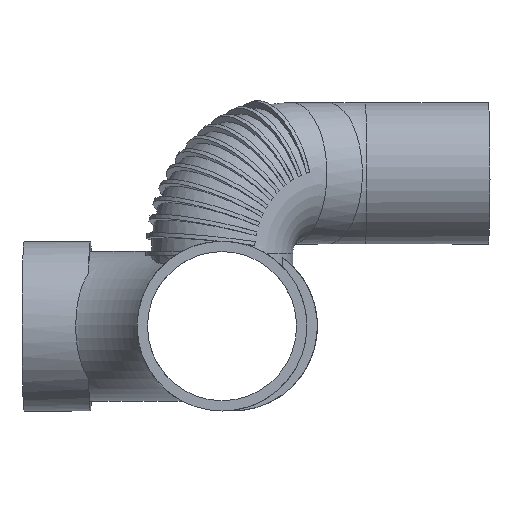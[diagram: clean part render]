
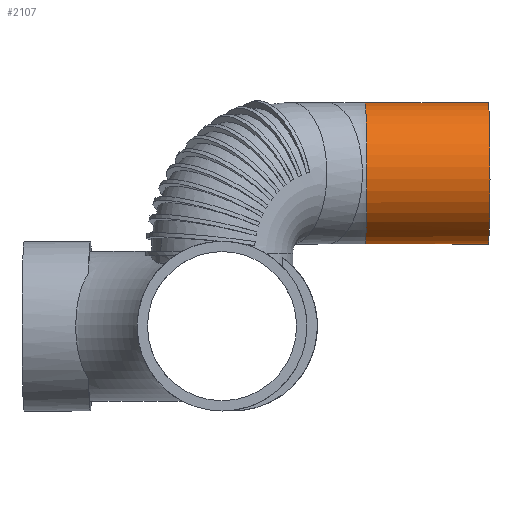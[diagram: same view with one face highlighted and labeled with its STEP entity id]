
A CAD part, front view. The second image highlights one B-rep face of the part: STEP entity #2107.
In plain terms, the highlighted cylindrical face has radius 37.5 mm (diameter 75 mm), a full revolution.
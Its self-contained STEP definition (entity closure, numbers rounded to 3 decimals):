
#51=LINE($,#4720,#104);
#52=LINE($,#4721,#105);
#104=VECTOR($,#2799,1.08);
#105=VECTOR($,#2800,1.08);
#268=FACE_OUTER_BOUND($,#595,.T.);
#400=CIRCLE($,#2322,37.5);
#406=CIRCLE($,#2335,37.5);
#407=CIRCLE($,#2337,37.5);
#466=FACE_BOUND($,#596,.T.);
#595=EDGE_LOOP($,(#1728,#1729,#1730,#1731));
#596=EDGE_LOOP($,(#1732));
#940=VERTEX_POINT($,#4706);
#941=VERTEX_POINT($,#4707);
#944=VERTEX_POINT($,#4716);
#945=VERTEX_POINT($,#4718);
#956=VERTEX_POINT($,#4780);
#1199=EDGE_CURVE($,#940,#941,#400,.T.);
#1205=EDGE_CURVE($,#941,#945,#51,.T.);
#1206=EDGE_CURVE($,#944,#940,#52,.T.);
#1226=EDGE_CURVE($,#945,#944,#406,.T.);
#1227=EDGE_CURVE($,#956,#956,#407,.T.);
#1728=ORIENTED_EDGE($,*,*,#1205,.T.);
#1729=ORIENTED_EDGE($,*,*,#1226,.T.);
#1730=ORIENTED_EDGE($,*,*,#1206,.T.);
#1731=ORIENTED_EDGE($,*,*,#1199,.T.);
#1732=ORIENTED_EDGE($,*,*,#1227,.T.);
#1883=CYLINDRICAL_SURFACE($,#2336,37.5);
#2107=ADVANCED_FACE($,(#268,#466),#1883,.T.);
#2322=AXIS2_PLACEMENT_3D($,#4708,#2785,#2786);
#2335=AXIS2_PLACEMENT_3D($,#4778,#2827,#2828);
#2336=AXIS2_PLACEMENT_3D($,#4779,#2829,#2830);
#2337=AXIS2_PLACEMENT_3D($,#4781,#2831,#2832);
#2785=DIRECTION('center_axis',(1.,0.026,0.));
#2786=DIRECTION('ref_axis',(0.026,-1.,0.));
#2799=DIRECTION($,(-1.,-0.026,0.));
#2800=DIRECTION($,(1.,0.026,0.));
#2827=DIRECTION('center_axis',(1.,0.026,0.));
#2828=DIRECTION('ref_axis',(0.026,-1.,0.));
#2829=DIRECTION('center_axis',(-1.,-0.026,0.));
#2830=DIRECTION('ref_axis',(0.026,-1.,0.));
#2831=DIRECTION('center_axis',(-1.,-0.026,0.));
#2832=DIRECTION('ref_axis',(0.026,-1.,0.));
#4706=CARTESIAN_POINT('',(76.79,120.594,43.542));
#4707=CARTESIAN_POINT('',(76.79,120.594,118.458));
#4708=CARTESIAN_POINT('Origin',(76.836,118.819,81.));
#4716=CARTESIAN_POINT('',(75.71,120.565,43.542));
#4718=CARTESIAN_POINT('',(75.71,120.565,118.458));
#4720=CARTESIAN_POINT($,(75.71,120.565,118.458));
#4721=CARTESIAN_POINT($,(75.71,120.565,43.542));
#4778=CARTESIAN_POINT('Origin',(75.757,118.791,81.));
#4779=CARTESIAN_POINT('Origin',(141.018,120.5,81.));
#4780=CARTESIAN_POINT('',(140.037,157.987,81.));
#4781=CARTESIAN_POINT('Origin',(141.018,120.5,81.));
